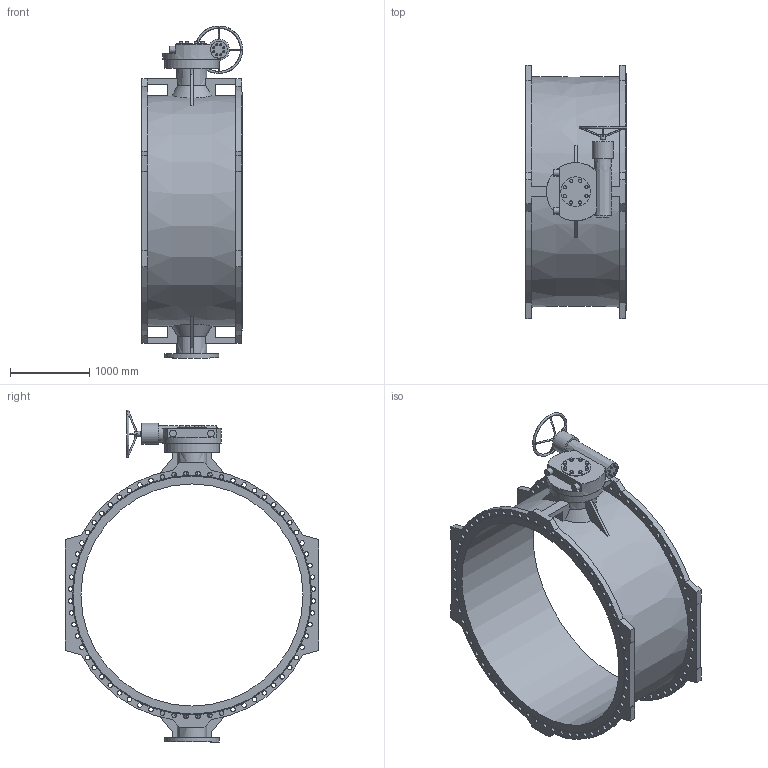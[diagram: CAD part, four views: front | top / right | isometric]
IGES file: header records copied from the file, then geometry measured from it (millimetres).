
Start section: SolidWorks IGES file using analytic representation for surfaces
Global section: file name: \\avksan2\techshare\PBM outline export from Enovia\O_756_100_DN2800_0XX000XX_REV04.igs; native system: SolidWorks 2019; preprocessor: SolidWorks 2019; author: pbm; date: 220516.114221; units: millimetre
Bounding box: 1277.85 x 3200 x 4185.99 mm (x, y, z)
Surface area: 35739913.7 mm2 (no closed solid volume)
Topology: 0 solids, 0 shells, 339 faces, 2351 edges, 2183 vertices
Faces by surface type: revolution 193, bspline 146
